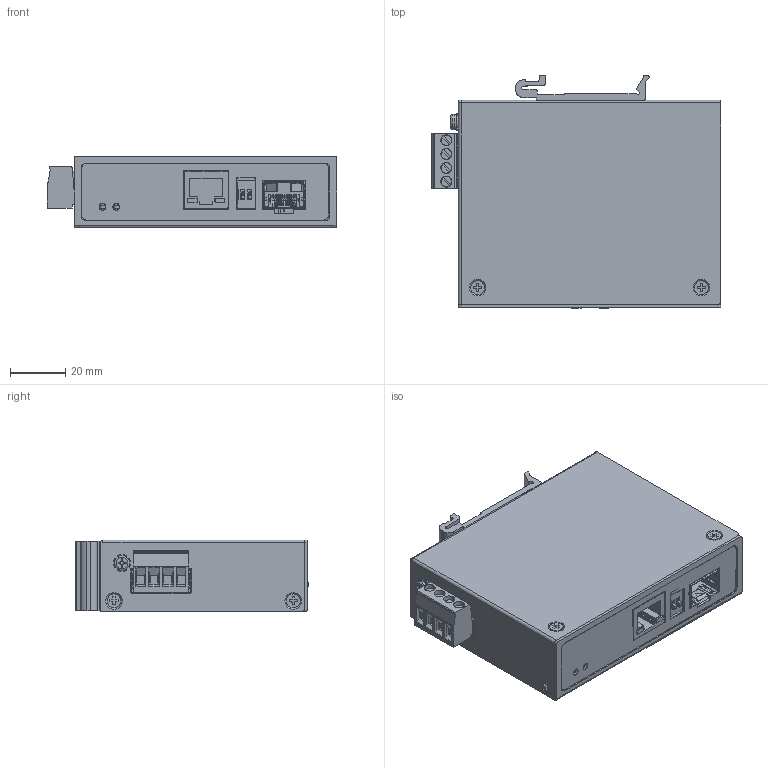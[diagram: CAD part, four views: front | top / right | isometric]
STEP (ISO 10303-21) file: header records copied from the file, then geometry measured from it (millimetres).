
FILE_DESCRIPTION(/* description */ ('STEP AP242','CAx-IF Rec.Pracs.---Representation and Presentation of Product Manufacturing Information (PMI)---4.0---2014-10-13','CAx-IF Rec.Pracs.---3D Tessellated Geometry---0.4---2014-09-14','2;1'),/* implementation_level */ '2;1');
FILE_NAME(/* name */ '684c7c8f413a5c6f42a6eae9',/* time_stamp */ '2025-06-13T19:31:31Z',/* author */ (''),/* organization */ (''),/* preprocessor_version */ 'ST-DEVELOPER v20',/* originating_system */ 'ONSHAPE BY PTC INC, 1.199',/* authorisation */ ' ');
FILE_SCHEMA (('AP242_MANAGED_MODEL_BASED_3D_ENGINEERING_MIM_LF { 1 0 10303 442 1 1 4 }'));
Products named in the file (125): SD-039; STENT; BOTTOM_CASE; TOP_CASE; SCREW_M3X4_F_3; SFP_CONN; SCREW_M3X4_F_7; DIP_SWITCH; CONN_PLUG; GND_SCREW; SCREW_M3X4_F_4; DIN_RAIL; SCREW_M3X4_F_2; STANDOFF; SCREW_M3X4_F; LED_GRN-1; SCREW_M3X4_F_5; CONN_SOCKET; SCREW_M3X4_F_6; RJ45; MYLAR; LED_GRN-2; SCREW_M3X4_F_8; SCREW_M3X4_F_1
Assembly tree (124 placements, depth 2):
  SD-039
    STENT
    BOTTOM_CASE
    TOP_CASE
    SCREW_M3X4_F_3
    BOTTOM_CASE
    TOP_CASE
    TOP_CASE
    BOTTOM_CASE
    TOP_CASE
    SFP_CONN
    TOP_CASE
    SCREW_M3X4_F_7
    SFP_CONN
    DIP_SWITCH
    CONN_PLUG
    BOTTOM_CASE
    BOTTOM_CASE
    BOTTOM_CASE
    BOTTOM_CASE
    BOTTOM_CASE
    DIP_SWITCH
    BOTTOM_CASE
    GND_SCREW
    BOTTOM_CASE
    TOP_CASE
    BOTTOM_CASE
    SCREW_M3X4_F_4
    DIP_SWITCH
    DIN_RAIL
    BOTTOM_CASE
    TOP_CASE
    DIP_SWITCH
    SFP_CONN
    TOP_CASE
    TOP_CASE
    TOP_CASE
    SFP_CONN
    BOTTOM_CASE
    TOP_CASE
    TOP_CASE
    SCREW_M3X4_F_2
    STANDOFF
    SCREW_M3X4_F
    BOTTOM_CASE
    BOTTOM_CASE
    BOTTOM_CASE
    LED_GRN-1
    BOTTOM_CASE
    SFP_CONN
    BOTTOM_CASE
    BOTTOM_CASE
    DIP_SWITCH
    BOTTOM_CASE
    BOTTOM_CASE
    BOTTOM_CASE
    SCREW_M3X4_F_5
    TOP_CASE
    TOP_CASE
    SFP_CONN
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Bounding box: 104.8 x 84.09 x 26 mm (x, y, z)
Volume: 9882.9 mm3; surface area: 68113.4 mm2
Topology: 30 solids, 140 shells, 3700 faces, 10956 edges, 7351 vertices
Faces by surface type: plane 2489, cylinder 1020, torus 92, cone 53, sphere 24, bspline 22
Full cylindrical faces by diameter (mm): 0.609 x1, 1.4 x4, 1.5 x1, 2 x26, 2.3 x2, 2.449 x4, 2.459 x4, 2.5 x2, 2.8 x3, 2.9 x8, 3 x15, 3.78 x4, 3.783 x4, 3.99 x4, 4 x21, 4.2 x8, 5 x9, 5.5 x1
Entity records: 129149 total; most frequent: CARTESIAN_POINT 26654, DIRECTION 20521, ORIENTED_EDGE 20066, EDGE_CURVE 10687, LINE 7965, VECTOR 7965, VERTEX_POINT 7291, AXIS2_PLACEMENT_3D 6278
